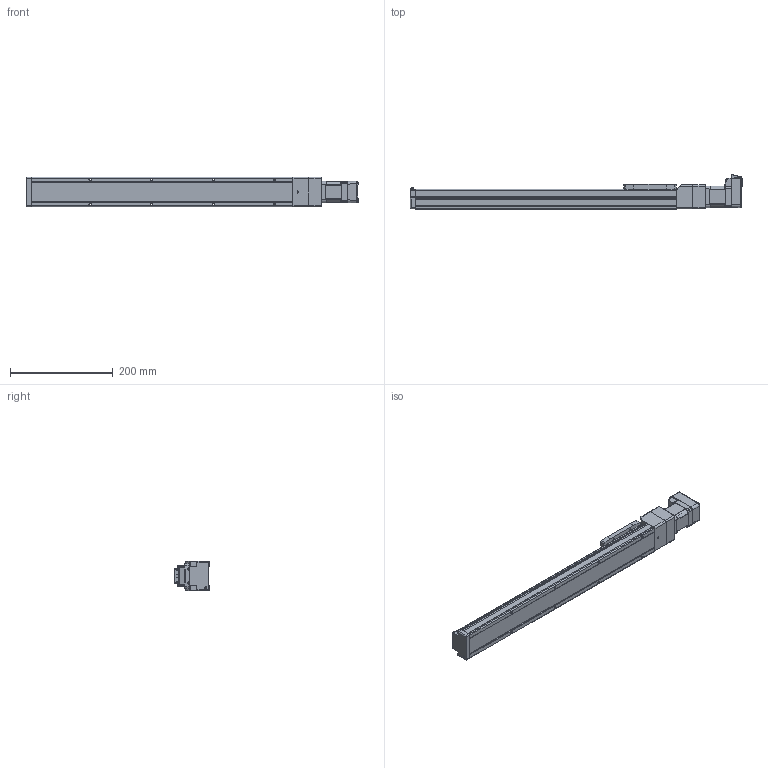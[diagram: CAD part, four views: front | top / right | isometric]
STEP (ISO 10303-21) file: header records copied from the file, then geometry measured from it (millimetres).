
FILE_DESCRIPTION (( 'STEP AP214' ), '1' );
FILE_NAME ('LEFS3(+)-25NM1Œû-400-17L.STEP', '2023-05-31T02:41:22', ( '' ), ( '' ), 'SwSTEP 2.0', 'SolidWorks 2019', '' );
FILE_SCHEMA (( 'AUTOMOTIVE_DESIGN' ));
Length unit declared in the file: millimetre
Products named in the file (5): LEFS3(+)-25NM1仩_BODY_400; LEFS3(+)-25NM1_TABLE; LEFS3(+)-25NM1口-400-17L; LEFS3(+)-25NM1_MOTOR Flange; CM3(+)-17L50A
Assembly tree (4 placements, depth 2):
  LEFS3(+)-25NM1口-400-17L
    LEFS3(+)-25NM1仩_BODY_400
    LEFS3(+)-25NM1_TABLE
    LEFS3(+)-25NM1_MOTOR Flange
    CM3(+)-17L50A
Bounding box: 647.3 x 66.75 x 58 mm (x, y, z)
Volume: 1288793.8 mm3; surface area: 168404.7 mm2
Topology: 5 solids, 5 shells, 995 faces, 2566 edges, 1616 vertices
Faces by surface type: plane 513, cylinder 310, cone 83, torus 39, bspline 29, sphere 21
Entity records: 40380 total; most frequent: CARTESIAN_POINT 7368, ORIENTED_EDGE 5070, DIRECTION 4882, EDGE_CURVE 2535, AXIS2_PLACEMENT_3D 1642, VERTEX_POINT 1616, LINE 1598, VECTOR 1598
